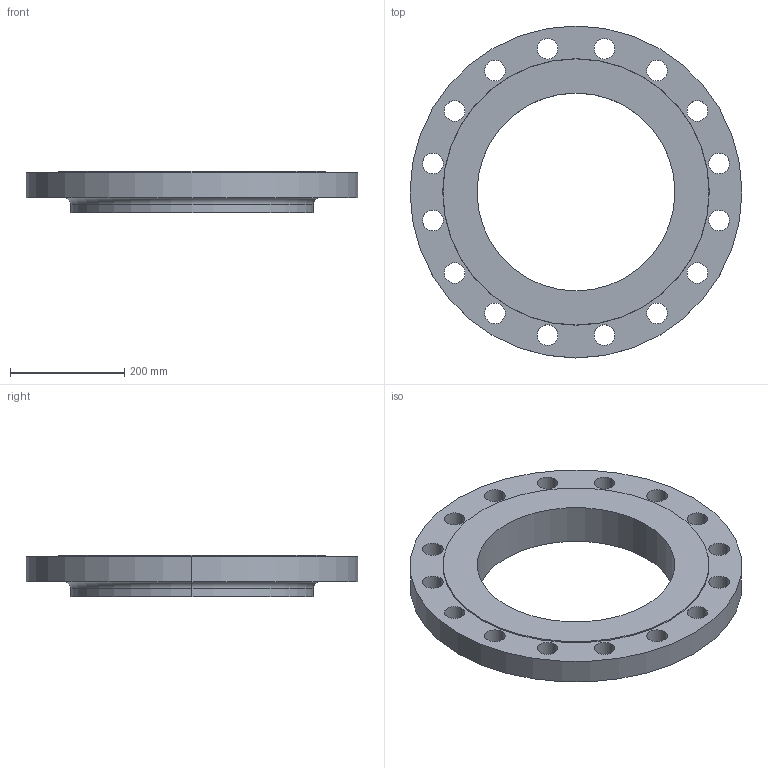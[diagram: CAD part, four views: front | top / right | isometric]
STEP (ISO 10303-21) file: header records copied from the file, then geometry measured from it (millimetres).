
FILE_DESCRIPTION (( 'STEP AP214' ), '1' );
FILE_NAME ('PN40 DN350 Type 13 - Type B Face.STEP', '2019-01-05T21:49:06', ( '' ), ( '' ), 'SwSTEP 2.0', 'SolidWorks 2019', '' );
FILE_SCHEMA (( 'AUTOMOTIVE_DESIGN' ));
Length unit declared in the file: millimetre
Products named in the file (1): PN40 DN350 Type 13 - Type B Face
Bounding box: 580 x 580 x 72 mm (x, y, z)
Volume: 8204625.7 mm3; surface area: 576425.5 mm2
Topology: 1 solids, 1 shells, 46 faces, 124 edges, 82 vertices
Faces by surface type: cylinder 38, plane 4, torus 2, cone 2
Entity records: 1598 total; most frequent: DIRECTION 302, CARTESIAN_POINT 253, ORIENTED_EDGE 248, AXIS2_PLACEMENT_3D 131, EDGE_CURVE 124, CIRCLE 84, VERTEX_POINT 82, EDGE_LOOP 82
